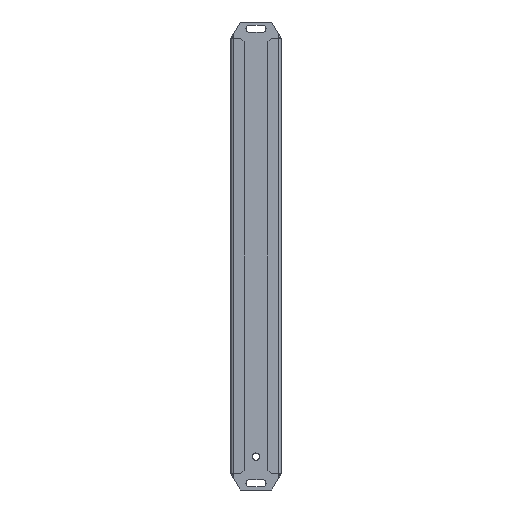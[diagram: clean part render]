
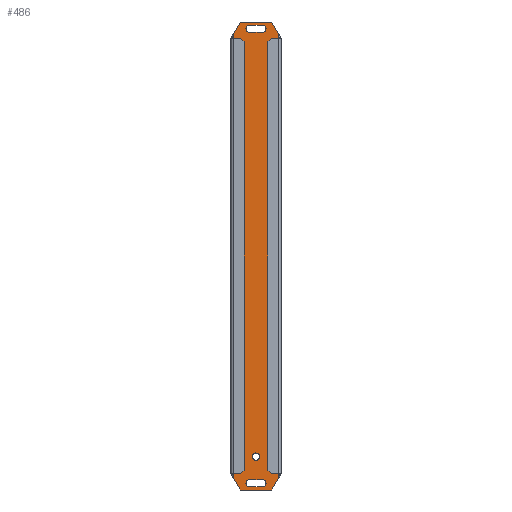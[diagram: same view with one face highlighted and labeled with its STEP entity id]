
A CAD part, front view. The second image highlights one B-rep face of the part: STEP entity #486.
In plain terms, the highlighted planar face has unit normal (0, -1, 0).
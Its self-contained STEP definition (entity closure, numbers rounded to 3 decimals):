
#23 = EDGE_CURVE ( 'NONE', #696, #1714, #543, .T. ) ;
#36 = ORIENTED_EDGE ( 'NONE', *, *, #834, .T. ) ;
#46 = CARTESIAN_POINT ( 'NONE',  ( 6.45, -1.2, 201. ) ) ;
#55 = VECTOR ( 'NONE', #837, 1000. ) ;
#62 = CARTESIAN_POINT ( 'NONE',  ( 6.45, -1.2, -204.25 ) ) ;
#114 = LINE ( 'NONE', #414, #993 ) ;
#122 = EDGE_CURVE ( 'NONE', #763, #520, #904, .T. ) ;
#124 = VERTEX_POINT ( 'NONE', #515 ) ;
#131 = EDGE_CURVE ( 'NONE', #124, #520, #875, .T. ) ;
#156 = DIRECTION ( 'NONE',  ( 0.507, 0., -0.862 ) ) ;
#161 = DIRECTION ( 'NONE',  ( 1., 0., 0. ) ) ;
#175 = CARTESIAN_POINT ( 'NONE',  ( 6.45, -1.2, -201. ) ) ;
#187 = VERTEX_POINT ( 'NONE', #788 ) ;
#191 = DIRECTION ( 'NONE',  ( 0.507, 0., 0.862 ) ) ;
#192 = VECTOR ( 'NONE', #238, 1000. ) ;
#200 = CIRCLE ( 'NONE', #309, 3.25 ) ;
#210 = CARTESIAN_POINT ( 'NONE',  ( 17.95, -1.2, -201. ) ) ;
#223 = PLANE ( 'NONE',  #1351 ) ;
#230 = ORIENTED_EDGE ( 'NONE', *, *, #1468, .T. ) ;
#238 = DIRECTION ( 'NONE',  ( 0., 0., 1. ) ) ;
#244 = CARTESIAN_POINT ( 'NONE',  ( 0., -1.2, 0. ) ) ;
#253 = CIRCLE ( 'NONE', #327, 3.25 ) ;
#266 = ORIENTED_EDGE ( 'NONE', *, *, #617, .T. ) ;
#275 = ORIENTED_EDGE ( 'NONE', *, *, #1436, .F. ) ;
#287 = CIRCLE ( 'NONE', #1009, 3.25 ) ;
#291 = DIRECTION ( 'NONE',  ( 1., 0., 0. ) ) ;
#293 = DIRECTION ( 'NONE',  ( 0., 0., 1. ) ) ;
#309 = AXIS2_PLACEMENT_3D ( 'NONE', #62, #605, #740 ) ;
#327 = AXIS2_PLACEMENT_3D ( 'NONE', #359, #1572, #293 ) ;
#330 = ORIENTED_EDGE ( 'NONE', *, *, #854, .T. ) ;
#359 = CARTESIAN_POINT ( 'NONE',  ( 17.95, -1.2, -204.25 ) ) ;
#365 = VECTOR ( 'NONE', #291, 1000. ) ;
#387 = EDGE_CURVE ( 'NONE', #187, #1667, #1499, .T. ) ;
#390 = LINE ( 'NONE', #819, #425 ) ;
#414 = CARTESIAN_POINT ( 'NONE',  ( 6.45, -1.2, -207.5 ) ) ;
#425 = VECTOR ( 'NONE', #156, 1000. ) ;
#434 = CARTESIAN_POINT ( 'NONE',  ( 6.45, -1.2, 207.5 ) ) ;
#441 = VERTEX_POINT ( 'NONE', #1523 ) ;
#453 = CARTESIAN_POINT ( 'NONE',  ( 26.145, -1.2, 210.25 ) ) ;
#454 = EDGE_CURVE ( 'NONE', #1480, #653, #1407, .T. ) ;
#486 = ADVANCED_FACE ( 'NONE', ( #1515, #1685, #1016, #1425 ), #223, .T. ) ;
#502 = ORIENTED_EDGE ( 'NONE', *, *, #23, .F. ) ;
#511 = EDGE_LOOP ( 'NONE', ( #1305, #1400, #36, #1652 ) ) ;
#515 = CARTESIAN_POINT ( 'NONE',  ( -7.9, -1.2, -199.781 ) ) ;
#520 = VERTEX_POINT ( 'NONE', #619 ) ;
#521 = DIRECTION ( 'NONE',  ( -1., 0., 0. ) ) ;
#525 = VECTOR ( 'NONE', #1117, 1000. ) ;
#543 = LINE ( 'NONE', #777, #1110 ) ;
#553 = EDGE_CURVE ( 'NONE', #1406, #1034, #114, .T. ) ;
#564 = DIRECTION ( 'NONE',  ( 0., -1., 0. ) ) ;
#576 = ORIENTED_EDGE ( 'NONE', *, *, #780, .T. ) ;
#581 = LINE ( 'NONE', #992, #525 ) ;
#596 = CIRCLE ( 'NONE', #1546, 3.25 ) ;
#605 = DIRECTION ( 'NONE',  ( 0., 1., 0. ) ) ;
#615 = DIRECTION ( 'NONE',  ( 0., -1., 0. ) ) ;
#617 = EDGE_CURVE ( 'NONE', #1480, #651, #581, .T. ) ;
#619 = CARTESIAN_POINT ( 'NONE',  ( -7.9, -1.2, 199.781 ) ) ;
#651 = VERTEX_POINT ( 'NONE', #453 ) ;
#653 = VERTEX_POINT ( 'NONE', #982 ) ;
#667 = CARTESIAN_POINT ( 'NONE',  ( 6.45, -1.2, -201. ) ) ;
#672 = ORIENTED_EDGE ( 'NONE', *, *, #131, .F. ) ;
#676 = VERTEX_POINT ( 'NONE', #1510 ) ;
#684 = DIRECTION ( 'NONE',  ( 0., 0., -1. ) ) ;
#690 = ORIENTED_EDGE ( 'NONE', *, *, #387, .T. ) ;
#693 = CARTESIAN_POINT ( 'NONE',  ( 6.45, -1.2, 204.25 ) ) ;
#696 = VERTEX_POINT ( 'NONE', #1306 ) ;
#726 = AXIS2_PLACEMENT_3D ( 'NONE', #1168, #1324, #1708 ) ;
#738 = ORIENTED_EDGE ( 'NONE', *, *, #916, .T. ) ;
#740 = DIRECTION ( 'NONE',  ( 0., 0., 1. ) ) ;
#756 = ORIENTED_EDGE ( 'NONE', *, *, #1614, .F. ) ;
#763 = VERTEX_POINT ( 'NONE', #1136 ) ;
#773 = AXIS2_PLACEMENT_3D ( 'NONE', #693, #1332, #1223 ) ;
#777 = CARTESIAN_POINT ( 'NONE',  ( -7.9, -1.2, -210.25 ) ) ;
#780 = EDGE_CURVE ( 'NONE', #696, #653, #1655, .T. ) ;
#788 = CARTESIAN_POINT ( 'NONE',  ( 6.45, -1.2, 207.5 ) ) ;
#819 = CARTESIAN_POINT ( 'NONE',  ( -7.9, -1.2, -199.781 ) ) ;
#834 = EDGE_CURVE ( 'NONE', #1331, #1406, #253, .T. ) ;
#837 = DIRECTION ( 'NONE',  ( 1., 0., 0. ) ) ;
#850 = CARTESIAN_POINT ( 'NONE',  ( 32.3, -1.2, -199.781 ) ) ;
#851 = VECTOR ( 'NONE', #880, 1000. ) ;
#854 = EDGE_CURVE ( 'NONE', #1367, #187, #1300, .T. ) ;
#865 = CIRCLE ( 'NONE', #726, 3.25 ) ;
#875 = LINE ( 'NONE', #1675, #192 ) ;
#880 = DIRECTION ( 'NONE',  ( 0., 0., -1. ) ) ;
#904 = LINE ( 'NONE', #1012, #945 ) ;
#906 = CARTESIAN_POINT ( 'NONE',  ( 32.3, -1.2, 199.781 ) ) ;
#916 = EDGE_CURVE ( 'NONE', #1667, #441, #865, .T. ) ;
#925 = VECTOR ( 'NONE', #1051, 1000. ) ;
#928 = EDGE_LOOP ( 'NONE', ( #1358, #1571, #672, #1101, #502, #576, #1478, #266 ) ) ;
#945 = VECTOR ( 'NONE', #1274, 1000. ) ;
#971 = LINE ( 'NONE', #1357, #55 ) ;
#982 = CARTESIAN_POINT ( 'NONE',  ( 32.3, -1.2, -199.781 ) ) ;
#983 = EDGE_CURVE ( 'NONE', #763, #651, #971, .T. ) ;
#992 = CARTESIAN_POINT ( 'NONE',  ( 32.3, -1.2, 199.781 ) ) ;
#993 = VECTOR ( 'NONE', #521, 1000. ) ;
#1009 = AXIS2_PLACEMENT_3D ( 'NONE', #1320, #564, #684 ) ;
#1012 = CARTESIAN_POINT ( 'NONE',  ( -7.9, -1.2, 199.781 ) ) ;
#1016 = FACE_BOUND ( 'NONE', #511, .T. ) ;
#1020 = LINE ( 'NONE', #1527, #925 ) ;
#1034 = VERTEX_POINT ( 'NONE', #1381 ) ;
#1051 = DIRECTION ( 'NONE',  ( -1., 0., 0. ) ) ;
#1076 = LINE ( 'NONE', #667, #365 ) ;
#1101 = ORIENTED_EDGE ( 'NONE', *, *, #1588, .T. ) ;
#1110 = VECTOR ( 'NONE', #1557, 1000. ) ;
#1117 = DIRECTION ( 'NONE',  ( -0.507, 0., 0.862 ) ) ;
#1136 = CARTESIAN_POINT ( 'NONE',  ( -1.745, -1.2, 210.25 ) ) ;
#1168 = CARTESIAN_POINT ( 'NONE',  ( 17.95, -1.2, 204.25 ) ) ;
#1172 = CARTESIAN_POINT ( 'NONE',  ( 12.2, -1.2, -177. ) ) ;
#1182 = EDGE_LOOP ( 'NONE', ( #756, #275 ) ) ;
#1223 = DIRECTION ( 'NONE',  ( 0., 0., 1. ) ) ;
#1274 = DIRECTION ( 'NONE',  ( -0.507, 0., -0.862 ) ) ;
#1288 = EDGE_LOOP ( 'NONE', ( #330, #690, #738, #230 ) ) ;
#1300 = CIRCLE ( 'NONE', #773, 3.25 ) ;
#1301 = EDGE_CURVE ( 'NONE', #1034, #1410, #200, .T. ) ;
#1305 = ORIENTED_EDGE ( 'NONE', *, *, #1301, .T. ) ;
#1306 = CARTESIAN_POINT ( 'NONE',  ( 26.145, -1.2, -210.25 ) ) ;
#1320 = CARTESIAN_POINT ( 'NONE',  ( 12.2, -1.2, -180.25 ) ) ;
#1324 = DIRECTION ( 'NONE',  ( 0., 1., 0. ) ) ;
#1331 = VERTEX_POINT ( 'NONE', #210 ) ;
#1332 = DIRECTION ( 'NONE',  ( 0., 1., 0. ) ) ;
#1351 = AXIS2_PLACEMENT_3D ( 'NONE', #244, #1537, #1651 ) ;
#1356 = CARTESIAN_POINT ( 'NONE',  ( -1.745, -1.2, -210.25 ) ) ;
#1357 = CARTESIAN_POINT ( 'NONE',  ( -7.9, -1.2, 210.25 ) ) ;
#1358 = ORIENTED_EDGE ( 'NONE', *, *, #983, .F. ) ;
#1365 = CARTESIAN_POINT ( 'NONE',  ( 12.2, -1.2, -180.25 ) ) ;
#1367 = VERTEX_POINT ( 'NONE', #46 ) ;
#1381 = CARTESIAN_POINT ( 'NONE',  ( 6.45, -1.2, -207.5 ) ) ;
#1392 = CARTESIAN_POINT ( 'NONE',  ( 32.3, -1.2, 199.781 ) ) ;
#1400 = ORIENTED_EDGE ( 'NONE', *, *, #1579, .T. ) ;
#1404 = DIRECTION ( 'NONE',  ( 0., 0., -1. ) ) ;
#1406 = VERTEX_POINT ( 'NONE', #1646 ) ;
#1407 = LINE ( 'NONE', #1392, #851 ) ;
#1410 = VERTEX_POINT ( 'NONE', #175 ) ;
#1425 = FACE_OUTER_BOUND ( 'NONE', #928, .T. ) ;
#1436 = EDGE_CURVE ( 'NONE', #676, #1541, #596, .T. ) ;
#1467 = CARTESIAN_POINT ( 'NONE',  ( 17.95, -1.2, 207.5 ) ) ;
#1468 = EDGE_CURVE ( 'NONE', #441, #1367, #1020, .T. ) ;
#1478 = ORIENTED_EDGE ( 'NONE', *, *, #454, .F. ) ;
#1480 = VERTEX_POINT ( 'NONE', #906 ) ;
#1499 = LINE ( 'NONE', #434, #1508 ) ;
#1508 = VECTOR ( 'NONE', #161, 1000. ) ;
#1510 = CARTESIAN_POINT ( 'NONE',  ( 12.2, -1.2, -183.5 ) ) ;
#1515 = FACE_BOUND ( 'NONE', #1182, .T. ) ;
#1523 = CARTESIAN_POINT ( 'NONE',  ( 17.95, -1.2, 201. ) ) ;
#1527 = CARTESIAN_POINT ( 'NONE',  ( 6.45, -1.2, 201. ) ) ;
#1537 = DIRECTION ( 'NONE',  ( 0., -1., 0. ) ) ;
#1541 = VERTEX_POINT ( 'NONE', #1172 ) ;
#1546 = AXIS2_PLACEMENT_3D ( 'NONE', #1365, #615, #1404 ) ;
#1557 = DIRECTION ( 'NONE',  ( -1., 0., 0. ) ) ;
#1571 = ORIENTED_EDGE ( 'NONE', *, *, #122, .T. ) ;
#1572 = DIRECTION ( 'NONE',  ( 0., 1., 0. ) ) ;
#1579 = EDGE_CURVE ( 'NONE', #1410, #1331, #1076, .T. ) ;
#1588 = EDGE_CURVE ( 'NONE', #124, #1714, #390, .T. ) ;
#1614 = EDGE_CURVE ( 'NONE', #1541, #676, #287, .T. ) ;
#1646 = CARTESIAN_POINT ( 'NONE',  ( 17.95, -1.2, -207.5 ) ) ;
#1651 = DIRECTION ( 'NONE',  ( 0., 0., -1. ) ) ;
#1652 = ORIENTED_EDGE ( 'NONE', *, *, #553, .T. ) ;
#1655 = LINE ( 'NONE', #850, #1677 ) ;
#1667 = VERTEX_POINT ( 'NONE', #1467 ) ;
#1675 = CARTESIAN_POINT ( 'NONE',  ( -7.9, -1.2, -199.781 ) ) ;
#1677 = VECTOR ( 'NONE', #191, 1000. ) ;
#1685 = FACE_BOUND ( 'NONE', #1288, .T. ) ;
#1708 = DIRECTION ( 'NONE',  ( 0., 0., 1. ) ) ;
#1714 = VERTEX_POINT ( 'NONE', #1356 ) ;
